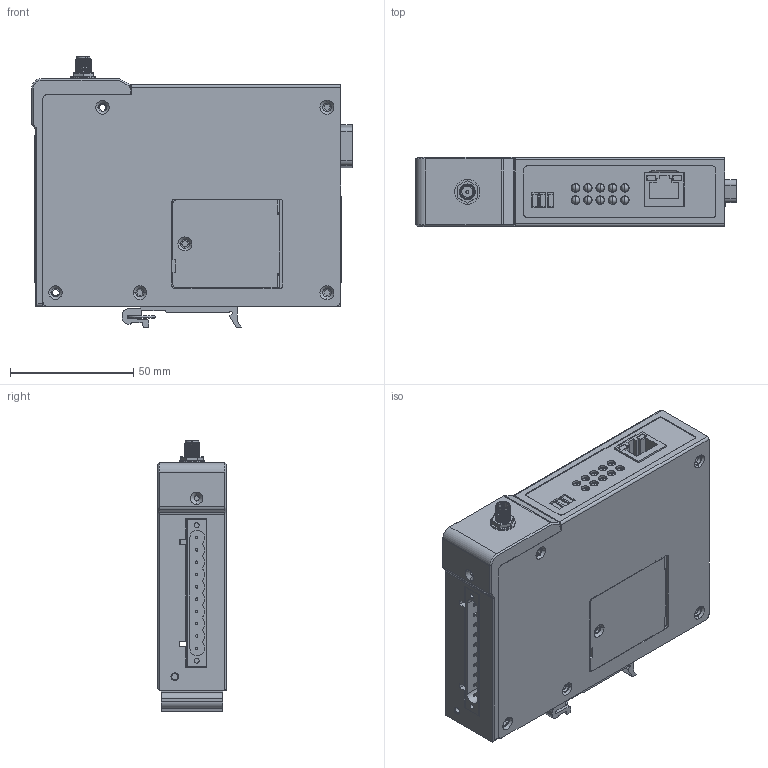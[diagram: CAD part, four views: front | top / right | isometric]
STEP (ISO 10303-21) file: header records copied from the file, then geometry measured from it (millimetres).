
FILE_DESCRIPTION((''),'2;1');
FILE_NAME('3D_ONCELL-G3150_ASM','2013-11-25T',('Sam_Liu'),(''),'PRO/ENGINEER BY PARAMETRIC TECHNOLOGY CORPORATION, 2009360','PRO/ENGINEER BY PARAMETRIC TECHNOLOGY CORPORATION, 2009360','');
FILE_SCHEMA(('CONFIG_CONTROL_DESIGN'));
Length unit declared in the file: millimetre
Products named in the file (27): PRT0062; PRT0061; PRT0063; PRT0064; PRT0065; PRT0066; PRT0067; PRT0068; PRT0069; PRT0070; PRT0071; PRT0072; PRT0060; ASM0004_ASM; PRT0073; PRT0075; PRT0076; PRT0077; PRT0078; PRT0079; PRT0080; PRT0081; PRT0082; PRT0083; ASM0006_ASM; ASM0005_ASM; 3D_ONCELL-G3150_ASM
Assembly tree (26 placements, depth 4):
  3D_ONCELL-G3150_ASM
    ASM0004_ASM
      PRT0062
      PRT0061
      PRT0063
      PRT0064
      PRT0065
      PRT0066
      PRT0067
      PRT0068
      PRT0069
      PRT0070
      PRT0071
      PRT0072
      PRT0060
    PRT0073
    ASM0005_ASM
      ASM0006_ASM
        PRT0075
        PRT0076
        PRT0077
        PRT0078
        PRT0079
        PRT0080
        PRT0081
        PRT0082
        PRT0083
Bounding box: 130.3 x 28 x 110.4 mm (x, y, z)
Volume: 83478.7 mm3; surface area: 134083.9 mm2
Topology: 23 solids, 25 shells, 1659 faces, 4297 edges, 2798 vertices
Faces by surface type: plane 826, cylinder 621, bspline 86, torus 54, cone 44, sphere 28
Entity records: 60125 total; most frequent: CARTESIAN_POINT 18465, DIRECTION 8597, ORIENTED_EDGE 8538, EDGE_CURVE 4269, AXIS2_PLACEMENT_3D 3105, VERTEX_POINT 2798, VECTOR 2387, LINE 2387
